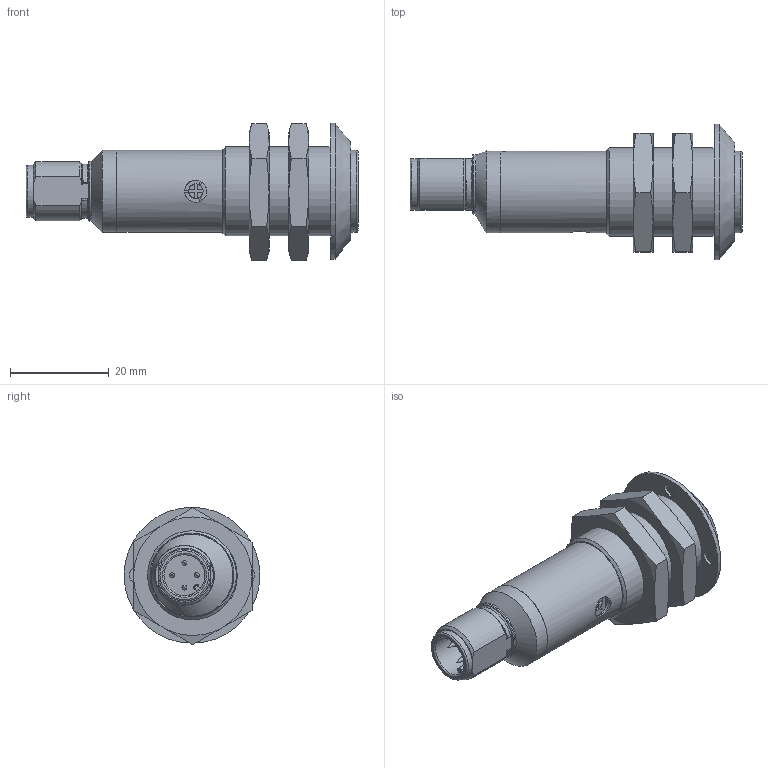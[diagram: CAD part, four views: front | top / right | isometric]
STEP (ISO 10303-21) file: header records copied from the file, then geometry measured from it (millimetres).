
FILE_DESCRIPTION( ( 'Unknown' ), '1' );
FILE_NAME( 'X:/SolidEdge/Models/Dokumentationen/Opto/OR18 Datalogic/vereinfachte Modelle/Neutralformate/OR18.Tx-xZxP.71O.stp', 'Unknown', ( 'Unknown' ), ( 'Unknown' ), 'PSStep 15.0.49', 'Unknown', ' ' );
FILE_SCHEMA( ( 'AUTOMOTIVE_DESIGN { 1 0 10303 214 1 1 1 1 }' ) );
Length unit declared in the file: millimetre
Products named in the file (4): Assem1; DSD-0689-baumer; DSD-0125_Plastic_Nut_Baumer; DSD-0719_Blocking_Ring_Black_Baumer
Assembly tree (4 placements, depth 2):
  Assem1
    DSD-0689-baumer
    DSD-0125_Plastic_Nut_Baumer  x2
    DSD-0719_Blocking_Ring_Black_Baumer
Bounding box: 67.2 x 27.5 x 27.81 mm (x, y, z)
Volume: 16353.6 mm3; surface area: 8472.3 mm2
Topology: 4 solids, 13 shells, 226 faces, 525 edges, 347 vertices
Faces by surface type: plane 88, cylinder 68, cone 40, bspline 23, torus 7
Full cylindrical faces by diameter (mm): 1 x4, 3 x5, 4.5 x1, 4.7 x1, 8.3 x1, 10.5 x1, 12 x1, 12.1 x1, 14.8 x1, 15.1 x1, 15.5 x1, 15.6 x1, 16.55 x2, 16.6 x1, 16.917 x3, 18 x1, 27.5 x1
Entity records: 9330 total; most frequent: CARTESIAN_POINT 3861, DIRECTION 764, ORIENTED_EDGE 750, EDGE_CURVE 375, AXIS2_PLACEMENT_3D 307, VERTEX_POINT 264, EDGE_LOOP 257, FACE_OUTER_BOUND 220
